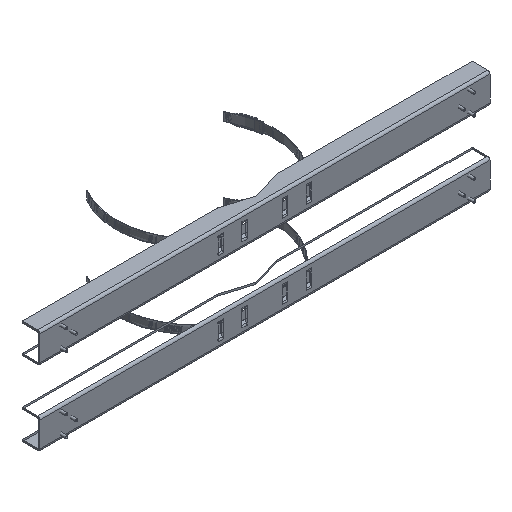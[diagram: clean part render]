
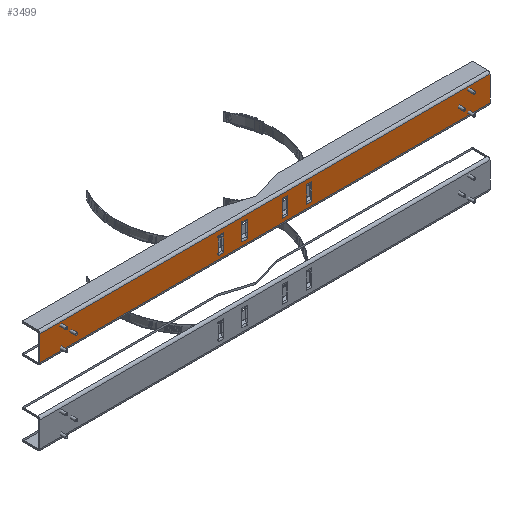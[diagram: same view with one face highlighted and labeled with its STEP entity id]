
A CAD part, isometric view. The second image highlights one B-rep face of the part: STEP entity #3499.
In plain terms, the highlighted planar face has unit normal (0, -1, 0).
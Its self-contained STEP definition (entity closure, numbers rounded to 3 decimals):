
#3237=FACE_BOUND('',#4320,.T.);
#3238=FACE_BOUND('',#4321,.T.);
#3239=FACE_BOUND('',#4322,.T.);
#3240=FACE_BOUND('',#4323,.T.);
#3241=FACE_BOUND('',#4324,.T.);
#3499=ADVANCED_FACE('',(#3237,#3238,#3239,#3240,#3241),#3840,.F.);
#3840=PLANE('',#12106);
#4320=EDGE_LOOP('',(#4886,#4887,#4888,#4889));
#4321=EDGE_LOOP('',(#4890,#4891,#4892,#4893));
#4322=EDGE_LOOP('',(#4894,#4895,#4896,#4897));
#4323=EDGE_LOOP('',(#4898,#4899,#4900,#4901));
#4324=EDGE_LOOP('',(#4902,#4903,#4904,#4905));
#4886=ORIENTED_EDGE('',*,*,#8821,.F.);
#4887=ORIENTED_EDGE('',*,*,#8822,.T.);
#4888=ORIENTED_EDGE('',*,*,#8823,.T.);
#4889=ORIENTED_EDGE('',*,*,#8824,.F.);
#4890=ORIENTED_EDGE('',*,*,#8825,.T.);
#4891=ORIENTED_EDGE('',*,*,#8826,.T.);
#4892=ORIENTED_EDGE('',*,*,#8827,.T.);
#4893=ORIENTED_EDGE('',*,*,#8828,.T.);
#4894=ORIENTED_EDGE('',*,*,#8829,.T.);
#4895=ORIENTED_EDGE('',*,*,#8830,.T.);
#4896=ORIENTED_EDGE('',*,*,#8831,.T.);
#4897=ORIENTED_EDGE('',*,*,#8832,.T.);
#4898=ORIENTED_EDGE('',*,*,#8833,.T.);
#4899=ORIENTED_EDGE('',*,*,#8834,.F.);
#4900=ORIENTED_EDGE('',*,*,#8835,.T.);
#4901=ORIENTED_EDGE('',*,*,#8836,.F.);
#4902=ORIENTED_EDGE('',*,*,#8837,.T.);
#4903=ORIENTED_EDGE('',*,*,#8838,.F.);
#4904=ORIENTED_EDGE('',*,*,#8839,.T.);
#4905=ORIENTED_EDGE('',*,*,#8840,.F.);
#7323=VERTEX_POINT('',#15899);
#7324=VERTEX_POINT('',#15900);
#7325=VERTEX_POINT('',#15902);
#7326=VERTEX_POINT('',#15904);
#7327=VERTEX_POINT('',#15907);
#7328=VERTEX_POINT('',#15908);
#7329=VERTEX_POINT('',#15910);
#7330=VERTEX_POINT('',#15912);
#7331=VERTEX_POINT('',#15915);
#7332=VERTEX_POINT('',#15916);
#7333=VERTEX_POINT('',#15918);
#7334=VERTEX_POINT('',#15920);
#7335=VERTEX_POINT('',#15923);
#7336=VERTEX_POINT('',#15924);
#7337=VERTEX_POINT('',#15926);
#7338=VERTEX_POINT('',#15928);
#7339=VERTEX_POINT('',#15931);
#7340=VERTEX_POINT('',#15932);
#7341=VERTEX_POINT('',#15934);
#7342=VERTEX_POINT('',#15936);
#8821=EDGE_CURVE('',#7323,#7324,#10739,.T.);
#8822=EDGE_CURVE('',#7323,#7325,#10740,.T.);
#8823=EDGE_CURVE('',#7325,#7326,#10741,.T.);
#8824=EDGE_CURVE('',#7324,#7326,#10742,.T.);
#8825=EDGE_CURVE('',#7327,#7328,#10743,.T.);
#8826=EDGE_CURVE('',#7328,#7329,#10744,.T.);
#8827=EDGE_CURVE('',#7329,#7330,#10745,.T.);
#8828=EDGE_CURVE('',#7330,#7327,#10746,.T.);
#8829=EDGE_CURVE('',#7331,#7332,#10747,.T.);
#8830=EDGE_CURVE('',#7332,#7333,#10748,.T.);
#8831=EDGE_CURVE('',#7333,#7334,#10749,.T.);
#8832=EDGE_CURVE('',#7334,#7331,#10750,.T.);
#8833=EDGE_CURVE('',#7335,#7336,#10751,.T.);
#8834=EDGE_CURVE('',#7337,#7336,#10752,.T.);
#8835=EDGE_CURVE('',#7337,#7338,#10753,.T.);
#8836=EDGE_CURVE('',#7335,#7338,#10754,.T.);
#8837=EDGE_CURVE('',#7339,#7340,#10755,.T.);
#8838=EDGE_CURVE('',#7341,#7340,#10756,.T.);
#8839=EDGE_CURVE('',#7341,#7342,#10757,.T.);
#8840=EDGE_CURVE('',#7339,#7342,#10758,.T.);
#10739=LINE('',#15898,#11429);
#10740=LINE('',#15901,#11430);
#10741=LINE('',#15903,#11431);
#10742=LINE('',#15905,#11432);
#10743=LINE('',#15906,#11433);
#10744=LINE('',#15909,#11434);
#10745=LINE('',#15911,#11435);
#10746=LINE('',#15913,#11436);
#10747=LINE('',#15914,#11437);
#10748=LINE('',#15917,#11438);
#10749=LINE('',#15919,#11439);
#10750=LINE('',#15921,#11440);
#10751=LINE('',#15922,#11441);
#10752=LINE('',#15925,#11442);
#10753=LINE('',#15927,#11443);
#10754=LINE('',#15929,#11444);
#10755=LINE('',#15930,#11445);
#10756=LINE('',#15933,#11446);
#10757=LINE('',#15935,#11447);
#10758=LINE('',#15937,#11448);
#11429=VECTOR('',#13155,1.);
#11430=VECTOR('',#13156,1.);
#11431=VECTOR('',#13157,1.);
#11432=VECTOR('',#13158,1.);
#11433=VECTOR('',#13159,1.);
#11434=VECTOR('',#13160,1.);
#11435=VECTOR('',#13161,1.);
#11436=VECTOR('',#13162,1.);
#11437=VECTOR('',#13163,1.);
#11438=VECTOR('',#13164,1.);
#11439=VECTOR('',#13165,1.);
#11440=VECTOR('',#13166,1.);
#11441=VECTOR('',#13167,1.);
#11442=VECTOR('',#13168,1.);
#11443=VECTOR('',#13169,1.);
#11444=VECTOR('',#13170,1.);
#11445=VECTOR('',#13171,1.);
#11446=VECTOR('',#13172,1.);
#11447=VECTOR('',#13173,1.);
#11448=VECTOR('',#13174,1.);
#12106=AXIS2_PLACEMENT_3D('',#15938,#13175,#13176);
#13155=DIRECTION('',(-1.,0.,0.));
#13156=DIRECTION('',(0.,0.,1.));
#13157=DIRECTION('',(-1.,0.,0.));
#13158=DIRECTION('',(0.,0.,1.));
#13159=DIRECTION('',(-1.,0.,0.));
#13160=DIRECTION('',(0.,0.,1.));
#13161=DIRECTION('',(1.,0.,0.));
#13162=DIRECTION('',(0.,0.,-1.));
#13163=DIRECTION('',(-1.,0.,0.));
#13164=DIRECTION('',(0.,0.,1.));
#13165=DIRECTION('',(1.,0.,0.));
#13166=DIRECTION('',(0.,0.,-1.));
#13167=DIRECTION('',(0.,0.,1.));
#13168=DIRECTION('',(-1.,0.,0.));
#13169=DIRECTION('',(0.,0.,-1.));
#13170=DIRECTION('',(1.,0.,0.));
#13171=DIRECTION('',(0.,0.,1.));
#13172=DIRECTION('',(-1.,0.,0.));
#13173=DIRECTION('',(0.,0.,-1.));
#13174=DIRECTION('',(1.,0.,0.));
#13175=DIRECTION('',(0.,1.,0.));
#13176=DIRECTION('',(0.,0.,-1.));
#15898=CARTESIAN_POINT('',(155.,0.,39.));
#15899=CARTESIAN_POINT('',(377.,0.,39.));
#15900=CARTESIAN_POINT('',(-377.,0.,39.));
#15901=CARTESIAN_POINT('',(377.,0.,38.917));
#15902=CARTESIAN_POINT('',(377.,0.,81.));
#15903=CARTESIAN_POINT('',(155.,0.,81.));
#15904=CARTESIAN_POINT('',(-377.,0.,81.));
#15905=CARTESIAN_POINT('',(-377.,0.,60.));
#15906=CARTESIAN_POINT('',(78.5,0.,45.593));
#15907=CARTESIAN_POINT('',(78.5,0.,45.593));
#15908=CARTESIAN_POINT('',(70.,0.,45.593));
#15909=CARTESIAN_POINT('',(70.,0.,38.917));
#15910=CARTESIAN_POINT('',(70.,0.,74.407));
#15911=CARTESIAN_POINT('',(70.,0.,74.407));
#15912=CARTESIAN_POINT('',(78.5,0.,74.407));
#15913=CARTESIAN_POINT('',(78.5,0.,60.));
#15914=CARTESIAN_POINT('',(38.5,0.,45.593));
#15915=CARTESIAN_POINT('',(38.5,0.,45.593));
#15916=CARTESIAN_POINT('',(30.,0.,45.593));
#15917=CARTESIAN_POINT('',(30.,0.,38.917));
#15918=CARTESIAN_POINT('',(30.,0.,74.407));
#15919=CARTESIAN_POINT('',(30.,0.,74.407));
#15920=CARTESIAN_POINT('',(38.5,0.,74.407));
#15921=CARTESIAN_POINT('',(38.5,0.,60.));
#15922=CARTESIAN_POINT('',(-78.5,0.,38.917));
#15923=CARTESIAN_POINT('',(-78.5,0.,45.593));
#15924=CARTESIAN_POINT('',(-78.5,0.,74.407));
#15925=CARTESIAN_POINT('',(-70.,0.,74.407));
#15926=CARTESIAN_POINT('',(-70.,0.,74.407));
#15927=CARTESIAN_POINT('',(-70.,0.,60.));
#15928=CARTESIAN_POINT('',(-70.,0.,45.593));
#15929=CARTESIAN_POINT('',(-78.5,0.,45.593));
#15930=CARTESIAN_POINT('',(-38.5,0.,38.917));
#15931=CARTESIAN_POINT('',(-38.5,0.,45.593));
#15932=CARTESIAN_POINT('',(-38.5,0.,74.407));
#15933=CARTESIAN_POINT('',(-30.,0.,74.407));
#15934=CARTESIAN_POINT('',(-30.,0.,74.407));
#15935=CARTESIAN_POINT('',(-30.,0.,35.));
#15936=CARTESIAN_POINT('',(-30.,0.,45.593));
#15937=CARTESIAN_POINT('',(-38.5,0.,45.593));
#15938=CARTESIAN_POINT('',(-155.083,0.,38.917));
